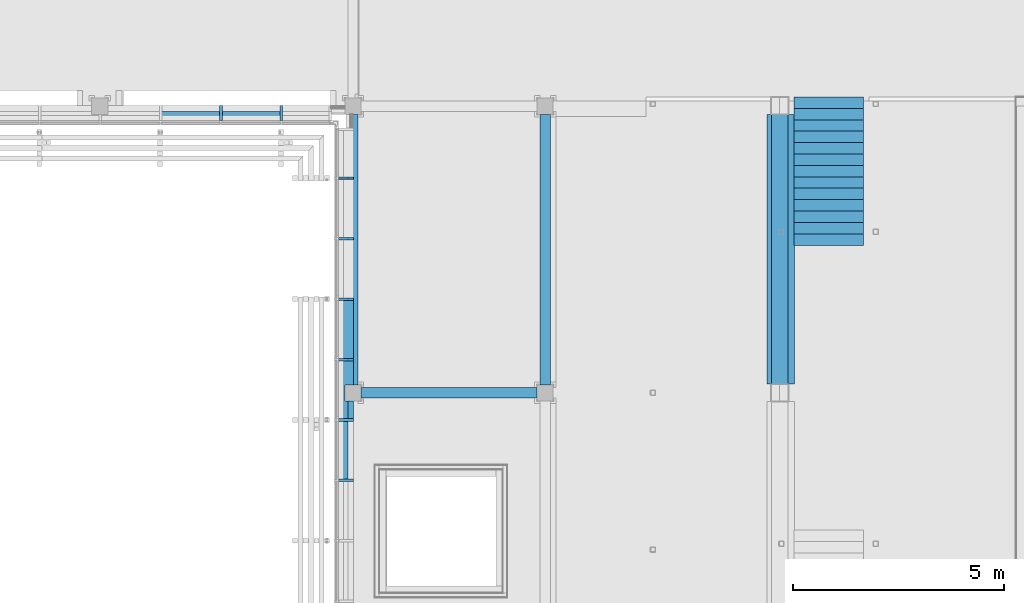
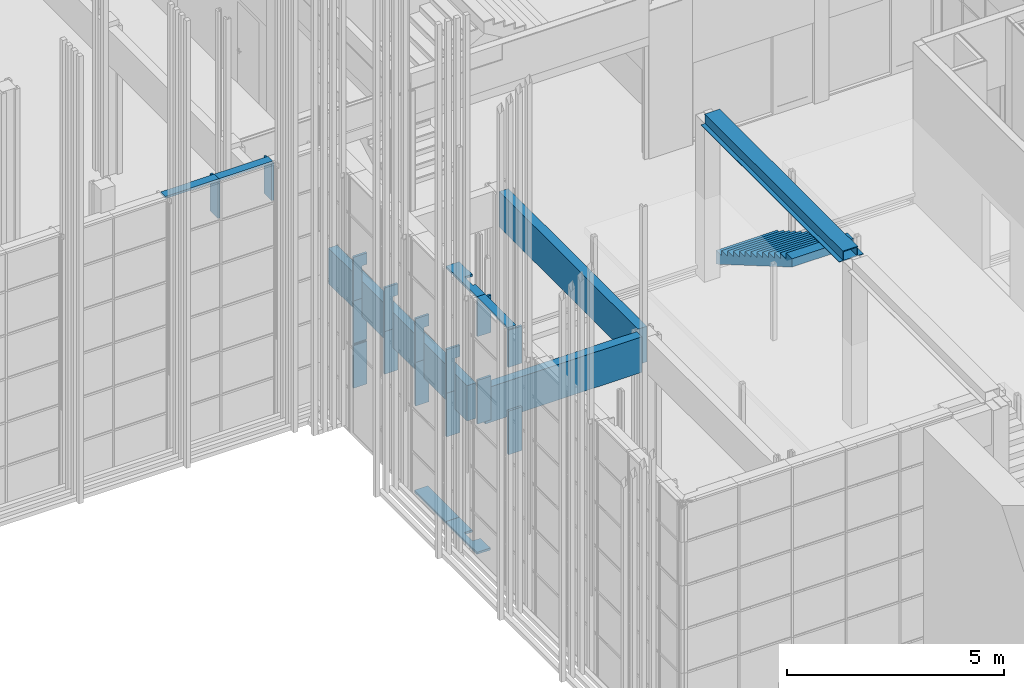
# One storey, part 72 of 260: 22 members, 4 beams, 3 elements without a shape of their own.
"""IFC2X3 building model written with IfcOpenShell, lengths in millimetres."""

from ifc_helpers import new_model, entity, si_unit, converted_unit, derived_unit, money_unit, direction, frame, origin_with_axes, place, context, subcontext, project, spatial, faceted_brep, material, type_object, element, aggregate, save


model = new_model("IFC2X3")

# Units and contexts
model_context = context("Model", 3, precision=0.01, world=origin_with_axes(), true_north=direction((0.0, 1.0)))
body_context = subcontext(model_context, "Body", "Model", "MODEL_VIEW")
ifc_project = project(units=[si_unit("LENGTHUNIT", "METRE", prefix="MILLI"), si_unit("AREAUNIT", "SQUARE_METRE"), si_unit("VOLUMEUNIT", "CUBIC_METRE"), converted_unit("PLANEANGLEUNIT", "DEGREE", entity("IfcPlaneAngleMeasure", 0.0174532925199), si_unit("PLANEANGLEUNIT", "RADIAN"), dimensions=[0, 0, 0, 0, 0, 0, 0]), money_unit("EUR"), converted_unit("TIMEUNIT", "Year", entity("IfcTimeMeasure", 31556926.0), si_unit("TIMEUNIT", "SECOND"), dimensions=[0, 0, 1, 0, 0, 0, 0]), si_unit("MASSUNIT", "GRAM", prefix="KILO"), si_unit("THERMODYNAMICTEMPERATUREUNIT", "DEGREE_CELSIUS"), si_unit("LUMINOUSINTENSITYUNIT", "LUMEN"), si_unit("ENERGYUNIT", "JOULE", prefix="MEGA"), derived_unit("THERMALCONDUCTANCEUNIT", [(si_unit("POWERUNIT", "WATT"), 1), (si_unit("LENGTHUNIT", "METRE"), -1), (si_unit("THERMODYNAMICTEMPERATUREUNIT", "KELVIN"), -1)]), derived_unit("SPECIFICHEATCAPACITYUNIT", [(si_unit("ENERGYUNIT", "JOULE"), 1), (si_unit("MASSUNIT", "GRAM", prefix="KILO"), -1), (si_unit("THERMODYNAMICTEMPERATUREUNIT", "KELVIN"), -1)]), derived_unit("MASSDENSITYUNIT", [(si_unit("MASSUNIT", "GRAM", prefix="KILO"), 1), (si_unit("VOLUMEUNIT", "CUBIC_METRE"), -1)])], contexts=[model_context])

# Site, building, storey
site_placement = place(None, origin_with_axes())
site = spatial("IfcSite", under=ifc_project, at=site_placement, Name="Kolde pst 67a", CompositionType="ELEMENT")
building_placement = place(site_placement, origin_with_axes())
building = spatial("IfcBuilding", under=site, at=building_placement, Name="Riigigümnaasium", CompositionType="ELEMENT")
storey_placement = place(building_placement, origin_with_axes())
storey = spatial("IfcBuildingStorey", under=building, at=storey_placement, Name="1. korrus", CompositionType="ELEMENT", Elevation=0.0)

# Stair, member
stair_placement = place(storey_placement, frame((58669.9488956, 24450.2693004, 0.0), z_axis=(0.0, 0.0, 1.0), x_axis=(1.0, 0.0, 0.0)))
stair = element("IfcStair", 1, at=stair_placement, inside=storey, Name="TREPP", ShapeType="NOTDEFINED")
ifc_material_1 = material(Name="_KANDETARIND - raudbetoon C25/30 vastavalt EK osale")
member_type_1 = type_object("IfcMemberType", Name="IfcMember", PredefinedType="USERDEFINED")
member_1_placement = place(stair_placement, origin_with_axes())
member_1 = element("IfcMember", 2, at=member_1_placement, type_object=member_type_1, material=ifc_material_1, Name="TT KONSTRUKTSIOON - 019", ObjectType="Stair Structure", context=body_context, shape_type="Brep", body=[
    faceted_brep([(1640.0, -180.0, -126.597194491), (1640.0, -90.0, -179.033091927), (1640.0, 0.0, -231.468989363), (1640.0, 0.0, 157.307692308), (1640.0, -270.0, 157.307692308), (1640.0, -270.0, 314.615384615), (1640.0, -540.0, 314.615384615), (1640.0, -540.0, 471.923076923), (1640.0, -810.0, 471.923076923), (1640.0, -810.0, 629.230769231), (1640.0, -1080.0, 629.230769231), (1640.0, -1080.0, 786.538461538), (1640.0, -1350.0, 786.538461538), (1640.0, -1350.0, 943.846153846), (1640.0, -1620.0, 943.846153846), (1640.0, -1620.0, 1101.15384615), (1640.0, -1890.0, 1101.15384615), (1640.0, -1890.0, 1258.46153846), (1640.0, -2160.0, 1258.46153846), (1640.0, -2160.0, 1415.76923077), (1640.0, -2430.0, 1415.76923077), (1640.0, -2430.0, 1573.07692308), (1640.0, -2700.0, 1573.07692308), (1640.0, -2700.0, 1730.38461538), (1640.0, -2970.0, 1730.38461538), (1640.0, -2970.0, 1887.69230769), (1640.0, -3240.0, 1887.69230769), (1640.0, -3240.0, 2045.0), (1640.0, -3510.0, 2045.0), (1640.0, -3510.0, 1813.53101064), (1640.0, -3420.0, 1761.0951132), (1640.0, -3330.0, 1708.65921577), (1640.0, -3240.0, 1656.22331833), (1640.0, -3150.0, 1603.78742089), (1640.0, -3060.0, 1551.35152346), (1640.0, -2970.0, 1498.91562602), (1640.0, -2880.0, 1446.47972859), (1640.0, -2790.0, 1394.04383115), (1640.0, -2700.0, 1341.60793371), (1640.0, -2610.0, 1289.17203628), (1640.0, -2520.0, 1236.73613884), (1640.0, -2430.0, 1184.30024141), (1640.0, -2340.0, 1131.86434397), (1640.0, -2250.0, 1079.42844653), (1640.0, -2160.0, 1026.9925491), (1640.0, -2070.0, 974.556651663), (1640.0, -1980.0, 922.120754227), (1640.0, -1890.0, 869.684856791), (1640.0, -1800.0, 817.248959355), (1640.0, -1710.0, 764.813061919), (1640.0, -1620.0, 712.377164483), (1640.0, -1530.0, 659.941267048), (1640.0, -1440.0, 607.505369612), (1640.0, -1350.0, 555.069472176), (1640.0, -1260.0, 502.63357474), (1640.0, -1170.0, 450.197677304), (1640.0, -1080.0, 397.761779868), (1640.0, -990.0, 345.325882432), (1640.0, -900.0, 292.889984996), (1640.0, -810.0, 240.45408756), (1640.0, -720.0, 188.018190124), (1640.0, -630.0, 135.582292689), (1640.0, -540.0, 83.1463952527), (1640.0, -450.0, 30.7104978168), (1640.0, -360.0, -21.7253996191), (1640.0, -270.0, -74.161297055), (0.0, -90.0, -179.033091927), (0.0, -180.0, -126.597194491), (0.0, 0.0, -231.468989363), (0.0, 0.0, 157.307692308), (0.0, -270.0, 157.307692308), (0.0, -270.0, 314.615384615), (0.0, -540.0, 314.615384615), (0.0, -540.0, 471.923076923), (0.0, -810.0, 471.923076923), (0.0, -810.0, 629.230769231), (0.0, -1080.0, 629.230769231), (0.0, -1080.0, 786.538461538), (0.0, -1350.0, 786.538461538), (0.0, -1350.0, 943.846153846), (0.0, -1620.0, 943.846153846), (0.0, -1620.0, 1101.15384615), (0.0, -1890.0, 1101.15384615), (0.0, -1890.0, 1258.46153846), (0.0, -2160.0, 1258.46153846), (0.0, -2160.0, 1415.76923077), (0.0, -2430.0, 1415.76923077), (0.0, -2430.0, 1573.07692308), (0.0, -2700.0, 1573.07692308), (0.0, -2700.0, 1730.38461538), (0.0, -2970.0, 1730.38461538), (0.0, -2970.0, 1887.69230769), (0.0, -3240.0, 1887.69230769), (0.0, -3240.0, 2045.0), (0.0, -3510.0, 2045.0), (0.0, -3510.0, 1813.53101064), (0.0, -3420.0, 1761.0951132), (0.0, -3330.0, 1708.65921577), (0.0, -3240.0, 1656.22331833), (0.0, -3150.0, 1603.78742089), (0.0, -3060.0, 1551.35152346), (0.0, -2970.0, 1498.91562602), (0.0, -2880.0, 1446.47972859), (0.0, -2790.0, 1394.04383115), (0.0, -2700.0, 1341.60793371), (0.0, -2610.0, 1289.17203628), (0.0, -2520.0, 1236.73613884), (0.0, -2430.0, 1184.30024141), (0.0, -2340.0, 1131.86434397), (0.0, -2250.0, 1079.42844653), (0.0, -2160.0, 1026.9925491), (0.0, -2070.0, 974.556651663), (0.0, -1980.0, 922.120754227), (0.0, -1890.0, 869.684856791), (0.0, -1800.0, 817.248959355), (0.0, -1710.0, 764.813061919), (0.0, -1620.0, 712.377164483), (0.0, -1530.0, 659.941267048), (0.0, -1440.0, 607.505369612), (0.0, -1350.0, 555.069472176), (0.0, -1260.0, 502.63357474), (0.0, -1170.0, 450.197677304), (0.0, -1080.0, 397.761779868), (0.0, -990.0, 345.325882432), (0.0, -900.0, 292.889984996), (0.0, -810.0, 240.45408756), (0.0, -720.0, 188.018190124), (0.0, -630.0, 135.582292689), (0.0, -540.0, 83.1463952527), (0.0, -450.0, 30.7104978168), (0.0, -360.0, -21.7253996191), (0.0, -270.0, -74.161297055)], [[[0, 1, 2, 3, 4, 5, 6, 7, 8, 9, 10, 11, 12, 13, 14, 15, 16, 17, 18, 19, 20, 21, 22, 23, 24, 25, 26, 27, 28, 29, 30, 31, 32, 33, 34, 35, 36, 37, 38, 39, 40, 41, 42, 43, 44, 45, 46, 47, 48, 49, 50, 51, 52, 53, 54, 55, 56, 57, 58, 59, 60, 61, 62, 63, 64, 65]], [[66, 1, 0, 67]], [[68, 2, 1, 66]], [[3, 2, 68, 69]], [[3, 69, 70, 4]], [[71, 5, 4, 70]], [[5, 71, 72, 6]], [[73, 7, 6, 72]], [[7, 73, 74, 8]], [[75, 9, 8, 74]], [[9, 75, 76, 10]], [[77, 11, 10, 76]], [[11, 77, 78, 12]], [[79, 13, 12, 78]], [[13, 79, 80, 14]], [[81, 15, 14, 80]], [[15, 81, 82, 16]], [[83, 17, 16, 82]], [[17, 83, 84, 18]], [[85, 19, 18, 84]], [[19, 85, 86, 20]], [[87, 21, 20, 86]], [[21, 87, 88, 22]], [[89, 23, 22, 88]], [[23, 89, 90, 24]], [[91, 25, 24, 90]], [[25, 91, 92, 26]], [[93, 27, 26, 92]], [[93, 94, 28, 27]], [[94, 95, 29, 28]], [[96, 30, 29, 95]], [[97, 31, 30, 96]], [[98, 32, 31, 97]], [[99, 33, 32, 98]], [[100, 34, 33, 99]], [[101, 35, 34, 100]], [[102, 36, 35, 101]], [[103, 37, 36, 102]], [[104, 38, 37, 103]], [[105, 39, 38, 104]], [[106, 40, 39, 105]], [[107, 41, 40, 106]], [[108, 42, 41, 107]], [[109, 43, 42, 108]], [[110, 44, 43, 109]], [[111, 45, 44, 110]], [[112, 46, 45, 111]], [[113, 47, 46, 112]], [[114, 48, 47, 113]], [[115, 49, 48, 114]], [[116, 50, 49, 115]], [[117, 51, 50, 116]], [[118, 52, 51, 117]], [[119, 53, 52, 118]], [[120, 54, 53, 119]], [[121, 55, 54, 120]], [[122, 56, 55, 121]], [[123, 57, 56, 122]], [[124, 58, 57, 123]], [[125, 59, 58, 124]], [[126, 60, 59, 125]], [[127, 61, 60, 126]], [[128, 62, 61, 127]], [[129, 63, 62, 128]], [[130, 64, 63, 129]], [[131, 65, 64, 130]], [[67, 0, 65, 131]], [[97, 96, 95, 94, 93, 92, 91, 90, 89, 88, 87, 86, 85, 84, 83, 82, 81, 80, 79, 78, 77, 76, 75, 74, 73, 72, 71, 70, 69, 68, 66, 67, 131, 130, 129, 128, 127, 126, 125, 124, 123, 122, 121, 120, 119, 118, 117, 116, 115, 114, 113, 112, 111, 110, 109, 108, 107, 106, 105, 104, 103, 102, 101, 100, 99, 98]]]),
])
aggregate(stair, [member_1])

# Curtain wall, members
curtain_wall_type = type_object("IfcCurtainWallType", Name="Curtain Wall Type", PredefinedType="NOTDEFINED")
curtain_wall_1_placement = place(storey_placement, frame((23890.0026791, 27220.1832522, -0.000253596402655), z_axis=(0.0, 0.0, 1.0), x_axis=(1.0, 0.0, 0.0)))
curtain_wall_1 = element("IfcCurtainWall", 3, at=curtain_wall_1_placement, inside=storey, type_object=curtain_wall_type, Name="Klaasfassaadi puitkarkass")
ifc_material_2 = material(Name="_KANDETARIND - liimpuit vastavalt EK osale")
member_type_2 = type_object("IfcMemberType", Name="Boundary Frame 60 x 360", PredefinedType="MEMBER")
member_2_placement = place(curtain_wall_1_placement, frame((21219.3770557, -3330.16844532, 7259.99985415), z_axis=(1.0, 0.0, -9.10009783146e-09), x_axis=(-9.10009783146e-09, 0.0, -1.0)))
member_2 = element("IfcMember", 4, at=member_2_placement, type_object=member_type_2, material=ifc_material_2, Name="RF RAAM SERV-700", ObjectType="MEMBER", context=body_context, shape_type="Brep", body=[
    faceted_brep([(59.9995875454, 220.054981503, 1430.00000055), (-1.3013139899e-05, 220.054981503, 1430.0), (-1.3013139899e-05, 0.0, 1430.0), (59.9999869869, 0.0, 1430.00000055), (0.0, 220.124789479, 0.0), (59.9996005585, 220.124789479, 5.4600235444e-07), (0.0, 0.0, 0.0), (60.0, 0.0, 5.4600235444e-07)], [[[0, 1, 2, 3]], [[4, 1, 0, 5]], [[1, 4, 6, 2]], [[6, 7, 3, 2]], [[5, 0, 3, 7]], [[4, 5, 7, 6]]]),
])
member_3_placement = place(curtain_wall_1_placement, frame((19789.3770557, -3330.16844545, 7259.99986717), z_axis=(1.0, 0.0, -9.10009596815e-09), x_axis=(-9.10009596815e-09, 0.0, -1.0)))
member_3 = element("IfcMember", 5, at=member_3_placement, type_object=member_type_2, material=ifc_material_2, Name="RF RAAM SERV-699", ObjectType="MEMBER", context=body_context, shape_type="Brep", body=[
    faceted_brep([(59.9996005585, 220.124789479, 1430.00000055), (-1.30131372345e-05, 220.124789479, 1430.0), (-1.30131372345e-05, 0.0, 1430.0), (59.9999869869, 0.0, 1430.00000055), (0.0, 220.194597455, 0.0), (59.9996135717, 220.194597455, 5.46009459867e-07), (0.0, 0.0, 0.0), (60.0, 0.0, 5.4600235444e-07)], [[[0, 1, 2, 3]], [[4, 1, 0, 5]], [[1, 4, 6, 2]], [[6, 7, 3, 2]], [[5, 0, 3, 7]], [[4, 5, 7, 6]]]),
])

curtain_wall_2_placement = place(storey_placement, frame((47889.9854796, 7778.28071079, -0.000681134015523), z_axis=(0.0, 0.0, 1.0), x_axis=(1.0, 0.0, 0.0)))
curtain_wall_2 = element("IfcCurtainWall", 6, at=curtain_wall_2_placement, inside=storey, type_object=curtain_wall_type, Name="Klaasfassaadi puitkarkass")
member_4_placement = place(curtain_wall_2_placement, frame((-9.70283053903e-06, 9028.28063511, 0.0), z_axis=(-1.07471327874e-09, 1.0, 0.0), x_axis=(0.0, 0.0, 1.0)))
member_4 = element("IfcMember", 7, at=member_4_placement, type_object=member_type_2, material=ifc_material_2, Name="RF RAAM SERV-887", ObjectType="MEMBER", context=body_context, shape_type="Brep", body=[
    faceted_brep([(60.0, 149.999999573, 453.438628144), (60.0, 149.999999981, 833.438628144), (60.0, 360.000000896, 833.438627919), (60.0, 360.000001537, 1429.99999961), (60.0, 1.5368399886e-06, 1430.0), (60.0, 0.0, 0.0), (60.0, 360.0, -3.86897625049e-07), (60.0, 360.000000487, 453.438627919), (0.000681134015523, 149.999999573, 453.438628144), (0.000681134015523, 149.999999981, 833.438628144), (0.000681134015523, 360.000000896, 833.438627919), (0.0, 360.000001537, 1429.99999961), (0.0, 1.5368399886e-06, 1430.0), (0.0, 0.0, 0.0), (0.0, 360.0, -3.86897625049e-07), (0.000681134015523, 360.000000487, 453.438627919)], [[[0, 1, 2, 3, 4, 5, 6, 7]], [[1, 0, 8, 9]], [[10, 2, 1, 9]], [[2, 10, 11, 3]], [[4, 3, 11, 12]], [[13, 5, 4, 12]], [[14, 6, 5, 13]], [[15, 7, 6, 14]], [[0, 7, 15, 8]], [[8, 15, 14, 13, 12, 11, 10, 9]]]),
])
member_5_placement = place(curtain_wall_2_placement, frame((-1.12396705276e-05, 10458.2806351, 0.0), z_axis=(-1.07471824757e-09, 1.0, 0.0), x_axis=(0.0, 0.0, 1.0)))
member_5 = element("IfcMember", 8, at=member_5_placement, type_object=member_type_2, material=ifc_material_2, Name="RF RAAM SERV-888", ObjectType="MEMBER", context=body_context, shape_type="Brep", body=[
    faceted_brep([(60.0, 360.0, -3.86897625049e-07), (60.0, 360.000001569, 1459.99999961), (60.0, 1.56909152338e-06, 1460.0), (60.0, 0.0, 0.0), (0.0, 360.0, -3.86897625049e-07), (0.0, 360.000001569, 1459.99999961), (0.0, 1.56909152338e-06, 1460.0), (0.0, 0.0, 0.0)], [[[0, 1, 2, 3]], [[4, 5, 1, 0]], [[1, 5, 6, 2]], [[3, 2, 6, 7]], [[0, 3, 7, 4]], [[7, 6, 5, 4]]]),
])
member_6_placement = place(curtain_wall_2_placement, frame((-9.70283053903e-06, 9028.28063511, 7260.00002512), z_axis=(1.07471824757e-09, -1.0, 0.0), x_axis=(0.0, 0.0, -1.0)))
member_6 = element("IfcMember", 9, at=member_6_placement, type_object=member_type_2, material=ifc_material_2, Name="RF RAAM SERV-903", ObjectType="MEMBER", context=body_context, shape_type="Brep", body=[
    faceted_brep([(0.0, 219.999945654, 1430.00000024), (0.0, 219.999942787, 2.36436648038e-07), (0.0, 0.0, 0.0), (0.0, -1.53684709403e-06, 1430.0), (59.9993439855, 219.999942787, 2.36436648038e-07), (59.9993439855, 219.999945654, 1430.00000024), (60.0, 0.0, 0.0), (60.0, -1.53684709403e-06, 1430.0)], [[[0, 1, 2, 3]], [[4, 1, 0, 5]], [[1, 4, 6, 2]], [[2, 6, 7, 3]], [[5, 0, 3, 7]], [[4, 5, 7, 6]]]),
])
member_7_placement = place(curtain_wall_2_placement, frame((-1.12396705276e-05, 10458.2806351, 7260.00002512), z_axis=(1.07471327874e-09, -1.0, 0.0), x_axis=(0.0, 0.0, -1.0)))
member_7 = element("IfcMember", 10, at=member_7_placement, type_object=member_type_2, material=ifc_material_2, Name="RF RAAM SERV-902", ObjectType="MEMBER", context=body_context, shape_type="Brep", body=[
    faceted_brep([(0.0, 149.999999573, 976.561371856), (0.0, 149.999999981, 596.561371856), (0.0, 359.999999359, 596.561372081), (0.0, 360.0, 3.86897625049e-07), (0.0, 0.0, 0.0), (0.0, -1.5368399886e-06, 1430.0), (0.0, 219.999942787, 1430.00000024), (0.0, 219.999941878, 976.561371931), (59.9993439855, 149.999999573, 976.561371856), (59.9993439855, 149.999999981, 596.561371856), (59.9995992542, 359.999999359, 596.561372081), (60.0, 360.0, 3.86897625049e-07), (60.0, 0.0, 0.0), (60.0, -1.5368399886e-06, 1430.0), (59.9993439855, 219.999942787, 1430.00000024), (59.9993439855, 219.999941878, 976.561371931)], [[[0, 1, 2, 3, 4, 5, 6, 7]], [[1, 0, 8, 9]], [[10, 2, 1, 9]], [[2, 10, 11, 3]], [[4, 3, 11, 12]], [[5, 4, 12, 13]], [[13, 14, 6, 5]], [[15, 7, 6, 14]], [[0, 7, 15, 8]], [[8, 15, 14, 13, 12, 11, 10, 9]]]),
])

# Member
member_type_3 = type_object("IfcMemberType", Name="Mullion Frame 60 x 360", PredefinedType="MEMBER")
member_8_placement = place(curtain_wall_1_placement, frame((22649.3770557, -3330.16844519, 6150.0002536), z_axis=(0.0, 0.0, 1.0), x_axis=(1.0, 0.0, 0.0)))
member_8 = element("IfcMember", 11, at=member_8_placement, type_object=member_type_3, material=ifc_material_2, Name="RF RAAM VERT-153", ObjectType="MEMBER", context=body_context, shape_type="Brep", body=[
    faceted_brep([(30.0, -2.70716782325e-09, 0.0), (30.0000000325, 359.999999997, 0.0), (30.0000000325, 359.999999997, 1049.99958427), (30.0, -2.70716782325e-09, 1049.99958755), (-29.9999999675, 360.000000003, 0.0), (-30.0, 2.70716782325e-09, 0.0), (-29.9999999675, 360.000000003, 1049.99958427), (-30.0, 2.70716782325e-09, 1049.99958755)], [[[0, 1, 2, 3]], [[4, 1, 0, 5]], [[1, 4, 6, 2]], [[3, 2, 6, 7]], [[5, 0, 3, 7]], [[4, 5, 7, 6]]]),
])

member_9_placement = place(curtain_wall_1_placement, frame((21219.3770557, -3330.16844532, 6150.0002536), z_axis=(0.0, 0.0, 1.0), x_axis=(1.0, 0.0, 0.0)))
member_9 = element("IfcMember", 12, at=member_9_placement, type_object=member_type_3, material=ifc_material_2, Name="RF RAAM VERT-154", ObjectType="MEMBER", context=body_context, shape_type="Brep", body=[
    faceted_brep([(30.0, -2.70716782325e-09, 0.0), (30.0000000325, 359.999999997, 0.0), (30.0000000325, 359.999999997, 1049.99958427), (30.0, -2.70716782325e-09, 1049.99958755), (-29.9999999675, 360.000000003, 0.0), (-30.0, 2.70361510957e-09, 0.0), (-29.9999999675, 360.000000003, 1049.99958427), (-30.0, 2.70361510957e-09, 1049.99958755)], [[[0, 1, 2, 3]], [[4, 1, 0, 5]], [[1, 4, 6, 2]], [[3, 2, 6, 7]], [[5, 0, 3, 7]], [[4, 5, 7, 6]]]),
])

aggregate(curtain_wall_1, [member_8, member_9, member_2, member_3])

member_10_placement = place(curtain_wall_2_placement, frame((-8.165983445e-06, 7598.28063511, 3690.00068113), z_axis=(0.0, 0.0, 1.0), x_axis=(1.07471576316e-09, -1.0, 0.0)))
member_10 = element("IfcMember", 13, at=member_10_placement, type_object=member_type_3, material=ifc_material_2, Name="RF RAAM VERT-457", ObjectType="MEMBER", context=body_context, shape_type="Brep", body=[
    faceted_brep([(30.0, 0.0, 0.0), (30.0, 360.0, 0.0), (30.0, 360.0, 1230.0), (30.0, 0.0, 1230.0), (-30.0, 360.0, 0.0), (-30.0, 0.0, 0.0), (-30.0, 360.0, 1230.0), (-30.0, 0.0, 1230.0)], [[[0, 1, 2, 3]], [[4, 1, 0, 5]], [[1, 4, 6, 2]], [[3, 2, 6, 7]], [[5, 0, 3, 7]], [[4, 5, 7, 6]]]),
])

member_11_placement = place(curtain_wall_2_placement, frame((-9.70283053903e-06, 9028.28063511, 3690.00068113), z_axis=(0.0, 0.0, 1.0), x_axis=(1.07471576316e-09, -1.0, 0.0)))
member_11 = element("IfcMember", 14, at=member_11_placement, type_object=member_type_3, material=ifc_material_2, Name="RF RAAM VERT-457", ObjectType="MEMBER", context=body_context, shape_type="Brep", body=[
    faceted_brep([(30.0, 0.0, 0.0), (30.0, 360.0, 0.0), (30.0, 360.0, 1230.0), (30.0, 0.0, 1230.0), (-30.0, 360.0, 0.0), (-30.0, 0.0, 0.0), (-30.0, 360.0, 1230.0), (-30.0, 0.0, 1230.0)], [[[0, 1, 2, 3]], [[4, 1, 0, 5]], [[1, 4, 6, 2]], [[3, 2, 6, 7]], [[5, 0, 3, 7]], [[4, 5, 7, 6]]]),
])

member_12_placement = place(curtain_wall_2_placement, frame((-1.12396705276e-05, 10458.2806351, 2460.00068113), z_axis=(0.0, 0.0, 1.0), x_axis=(1.07471576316e-09, -1.0, 0.0)))
member_12 = element("IfcMember", 15, at=member_12_placement, type_object=member_type_3, material=ifc_material_2, Name="RF RAAM VERT-457", ObjectType="MEMBER", context=body_context, shape_type="Brep", body=[
    faceted_brep([(-30.0, 219.999992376, 1230.0), (-30.0, 219.999992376, 710.0), (-30.0, 360.0, 710.0), (-30.0, 360.0, 0.0), (-30.0, 0.0, 0.0), (-30.0, 0.0, 1230.0), (30.0, 219.999992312, 1230.0), (30.0, 219.999992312, 710.0), (30.0, 360.0, 710.0), (30.0, 360.0, 0.0), (30.0, 0.0, 0.0), (30.0, 0.0, 1230.0)], [[[0, 1, 2, 3, 4, 5]], [[1, 0, 6, 7]], [[8, 2, 1, 7]], [[2, 8, 9, 3]], [[3, 9, 10, 4]], [[4, 10, 11, 5]], [[6, 0, 5, 11]], [[7, 6, 11, 10, 9, 8]]]),
])

member_13_placement = place(curtain_wall_2_placement, frame((-1.12396705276e-05, 10458.2806351, 3690.00068113), z_axis=(0.0, 0.0, 1.0), x_axis=(1.07471576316e-09, -1.0, 0.0)))
member_13 = element("IfcMember", 16, at=member_13_placement, type_object=member_type_3, material=ifc_material_2, Name="RF RAAM VERT-457", ObjectType="MEMBER", context=body_context, shape_type="Brep", body=[
    faceted_brep([(30.0, 219.999992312, 480.0), (30.0, 219.999992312, 0.0), (-30.0, 219.999992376, 0.0), (-30.0, 219.999992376, 480.0), (-30.0, 219.9945629, 760.0), (30.0, 219.994208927, 760.0), (30.0, 219.994208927, 780.0), (30.0, 219.994208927, 810.0), (30.0, 219.994208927, 907.0), (30.0, 219.994208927, 910.0), (30.0, 360.0, 910.0), (30.0, 360.0, 1230.0), (30.0, 0.0, 1230.0), (30.0, 0.0, 0.0), (-30.0, 0.0, 0.0), (-30.0, 0.0, 1230.0), (-30.0, 360.0, 1230.0), (-30.0, 360.0, 910.0), (-30.0, 219.9945629, 910.0), (-30.0, 219.9945629, 907.0), (-30.0, 219.9945629, 810.0), (-30.0, 219.9945629, 780.0)], [[[0, 1, 2, 3, 4, 5]], [[1, 0, 5, 6, 7, 8, 9, 10, 11, 12, 13]], [[2, 1, 13, 14]], [[3, 2, 14, 15, 16, 17, 18, 19, 20, 21, 4]], [[5, 4, 21, 6]], [[6, 21, 20, 7]], [[7, 20, 19, 8]], [[8, 19, 18, 9]], [[9, 18, 17, 10]], [[11, 10, 17, 16]], [[16, 15, 12, 11]], [[12, 15, 14, 13]]]),
])

member_14_placement = place(curtain_wall_2_placement, frame((-1.27765176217e-05, 11888.2806351, 2460.00068113), z_axis=(0.0, 0.0, 1.0), x_axis=(1.07471576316e-09, -1.0, 0.0)))
member_14 = element("IfcMember", 17, at=member_14_placement, type_object=member_type_3, material=ifc_material_2, Name="RF RAAM VERT-457", ObjectType="MEMBER", context=body_context, shape_type="Brep", body=[
    faceted_brep([(-30.0, 219.999993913, 1230.0), (-30.0, 219.999993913, 710.0), (-30.0, 360.0, 710.0), (-30.0, 360.0, 30.0), (-30.0, 0.0, 30.0), (-30.0, 0.0, 1230.0), (30.0, 219.999993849, 1230.0), (30.0, 219.999993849, 710.0), (30.0, 360.0, 710.0), (30.0, 360.0, 0.0), (0.0, 360.0, 0.0), (0.0, 360.0, 30.0), (0.0, 0.0, 30.0), (0.0, 0.0, 0.0), (30.0, 0.0, 0.0), (30.0, 0.0, 1230.0)], [[[0, 1, 2, 3, 4, 5]], [[1, 0, 6, 7]], [[8, 2, 1, 7]], [[2, 8, 9, 10, 11, 3]], [[12, 4, 3, 11]], [[4, 12, 13, 14, 15, 5]], [[6, 0, 5, 15]], [[7, 6, 15, 14, 9, 8]], [[13, 10, 9, 14]], [[13, 12, 11, 10]]]),
])

member_15_placement = place(curtain_wall_2_placement, frame((-1.27765176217e-05, 11888.2806351, 3690.00068113), z_axis=(0.0, 0.0, 1.0), x_axis=(1.07471576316e-09, -1.0, 0.0)))
member_15 = element("IfcMember", 18, at=member_15_placement, type_object=member_type_3, material=ifc_material_2, Name="RF RAAM VERT-457", ObjectType="MEMBER", context=body_context, shape_type="Brep", body=[
    faceted_brep([(30.0, 219.999993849, 480.0), (30.0, 219.999993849, 0.0), (-30.0, 219.999993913, 0.0), (-30.0, 219.999993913, 480.0), (-30.0, 220.002999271, 760.0), (30.0, 220.002645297, 760.0), (30.0, 220.002645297, 780.0), (30.0, 220.002645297, 810.0), (30.0, 220.002645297, 907.0), (30.0, 220.002645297, 910.0), (30.0, 360.0, 910.0), (30.0, 360.0, 1230.0), (30.0, 0.0, 1230.0), (30.0, 0.0, 0.0), (-30.0, 0.0, 0.0), (-30.0, 0.0, 1230.0), (-30.0, 360.0, 1230.0), (-30.0, 360.0, 910.0), (-30.0, 220.002999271, 910.0), (-30.0, 220.002999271, 907.0), (-30.0, 220.002999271, 810.0), (-30.0, 220.002999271, 780.0)], [[[0, 1, 2, 3, 4, 5]], [[1, 0, 5, 6, 7, 8, 9, 10, 11, 12, 13]], [[2, 1, 13, 14]], [[3, 2, 14, 15, 16, 17, 18, 19, 20, 21, 4]], [[5, 4, 21, 6]], [[6, 21, 20, 7]], [[7, 20, 19, 8]], [[8, 19, 18, 9]], [[9, 18, 17, 10]], [[11, 10, 17, 16]], [[16, 15, 12, 11]], [[12, 15, 14, 13]]]),
])

member_16_placement = place(curtain_wall_2_placement, frame((-1.43133576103e-05, 13318.2806351, 2460.00068113), z_axis=(0.0, 0.0, 1.0), x_axis=(1.07471327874e-09, -1.0, 0.0)))
member_16 = element("IfcMember", 19, at=member_16_placement, type_object=member_type_3, material=ifc_material_2, Name="RF RAAM VERT-457", ObjectType="MEMBER", context=body_context, shape_type="Brep", body=[
    faceted_brep([(-30.0, 219.99999545, 1230.0), (-30.0, 219.99999545, 710.0), (-30.0, 360.0, 710.0), (-30.0, 360.0, 30.0), (-30.0, 0.0, 30.0), (-30.0, 0.0, 1230.0), (30.0, 219.999995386, 1230.0), (30.0, 219.999995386, 710.0), (30.0, 360.0, 710.0), (30.0, 360.0, 30.0), (30.0, 0.0, 30.0), (30.0, 0.0, 1230.0)], [[[0, 1, 2, 3, 4, 5]], [[1, 0, 6, 7]], [[8, 2, 1, 7]], [[2, 8, 9, 3]], [[3, 9, 10, 4]], [[5, 4, 10, 11]], [[6, 0, 5, 11]], [[7, 6, 11, 10, 9, 8]]]),
])

member_17_placement = place(curtain_wall_2_placement, frame((-1.43133576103e-05, 13318.2806351, 3690.00068113), z_axis=(0.0, 0.0, 1.0), x_axis=(1.07471327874e-09, -1.0, 0.0)))
member_17 = element("IfcMember", 20, at=member_17_placement, type_object=member_type_3, material=ifc_material_2, Name="RF RAAM VERT-457", ObjectType="MEMBER", context=body_context, shape_type="Brep", body=[
    faceted_brep([(30.0, 220.011081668, 480.0), (-30.0, 220.011435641, 480.0), (-30.0, 220.011435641, 760.0), (30.0, 220.011081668, 760.0), (-30.0, 219.99999545, 480.0), (30.0, 219.999995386, 480.0), (-30.0, 219.99999545, 0.0), (-30.0, 0.0, 0.0), (-30.0, 0.0, 1230.0), (-30.0, 360.0, 1230.0), (-30.0, 360.0, 910.0), (-30.0, 220.011435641, 910.0), (-30.0, 220.011435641, 907.0), (-30.0, 220.011435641, 810.0), (-30.0, 220.011435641, 780.0), (30.0, 220.011081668, 780.0), (30.0, 220.011081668, 810.0), (30.0, 220.011081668, 907.0), (30.0, 220.011081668, 910.0), (30.0, 360.0, 910.0), (30.0, 360.0, 1230.0), (30.0, 0.0, 1230.0), (30.0, 0.0, 0.0), (30.0, 219.999995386, 0.0)], [[[0, 1, 2, 3]], [[4, 1, 0, 5]], [[4, 6, 7, 8, 9, 10, 11, 12, 13, 14, 2, 1]], [[3, 2, 14, 15]], [[5, 0, 3, 15, 16, 17, 18, 19, 20, 21, 22, 23]], [[6, 4, 5, 23]], [[6, 23, 22, 7]], [[21, 8, 7, 22]], [[9, 8, 21, 20]], [[20, 19, 10, 9]], [[18, 11, 10, 19]], [[17, 12, 11, 18]], [[16, 13, 12, 17]], [[15, 14, 13, 16]]]),
])

member_18_placement = place(curtain_wall_2_placement, frame((-1.58501975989e-05, 14748.2806351, 1230.00068113), z_axis=(0.0, 0.0, 1.0), x_axis=(1.07471574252e-09, -1.0, 0.0)))
member_18 = element("IfcMember", 21, at=member_18_placement, type_object=member_type_3, material=ifc_material_2, Name="RF RAAM VERT-457", ObjectType="MEMBER", context=body_context, shape_type="Brep", body=[
    faceted_brep([(0.0, 0.0, 1230.0), (-30.0, 0.0, 1230.0), (-30.0, 0.0, 0.0), (30.0, 0.0, 0.0), (30.0, 0.0, 1200.0), (0.0, 0.0, 1200.0), (0.0, 360.0, 1230.0), (-30.0, 360.0, 1230.0), (-30.0, 360.0, 0.0), (30.0, 360.0, 0.0), (30.0, 360.0, 1200.0), (0.0, 360.0, 1200.0)], [[[0, 1, 2, 3, 4, 5]], [[6, 7, 1, 0]], [[8, 2, 1, 7]], [[8, 9, 3, 2]], [[4, 3, 9, 10]], [[10, 11, 5, 4]], [[5, 11, 6, 0]], [[11, 10, 9, 8, 7, 6]]]),
])

member_19_placement = place(curtain_wall_2_placement, frame((-1.58501975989e-05, 14748.2806351, 2460.00068113), z_axis=(0.0, 0.0, 1.0), x_axis=(1.07471574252e-09, -1.0, 0.0)))
member_19 = element("IfcMember", 22, at=member_19_placement, type_object=member_type_3, material=ifc_material_2, Name="RF RAAM VERT-457", ObjectType="MEMBER", context=body_context, shape_type="Brep", body=[
    faceted_brep([(-30.0, 219.999996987, 1230.0), (-30.0, 219.999996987, 710.0), (-30.0, 360.0, 710.0), (-30.0, 360.0, 0.0), (-30.0, 0.0, 0.0), (-30.0, 0.0, 1230.0), (30.0, 219.999996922, 1230.0), (30.0, 219.999996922, 710.0), (30.0, 360.0, 710.0), (30.0, 360.0, 30.0), (0.0, 360.0, 30.0), (0.0, 360.0, 0.0), (0.0, 0.0, 0.0), (0.0, 0.0, 30.0), (30.0, 0.0, 30.0), (30.0, 0.0, 1230.0)], [[[0, 1, 2, 3, 4, 5]], [[1, 0, 6, 7]], [[8, 2, 1, 7]], [[2, 8, 9, 10, 11, 3]], [[11, 12, 4, 3]], [[12, 13, 14, 15, 5, 4]], [[6, 0, 5, 15]], [[7, 6, 15, 14, 9, 8]], [[14, 13, 10, 9]], [[13, 12, 11, 10]]]),
])

member_20_placement = place(curtain_wall_2_placement, frame((-1.58501975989e-05, 14748.2806351, 3690.00068113), z_axis=(0.0, 0.0, 1.0), x_axis=(1.07471574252e-09, -1.0, 0.0)))
member_20 = element("IfcMember", 23, at=member_20_placement, type_object=member_type_3, material=ifc_material_2, Name="RF RAAM VERT-457", ObjectType="MEMBER", context=body_context, shape_type="Brep", body=[
    faceted_brep([(30.0, 220.019518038, 480.0), (-30.0, 220.019872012, 480.0), (-30.0, 220.019872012, 760.0), (30.0, 220.019518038, 760.0), (-30.0, 219.999996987, 480.0), (30.0, 219.999996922, 480.0), (-30.0, 219.999996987, 0.0), (-30.0, 0.0, 0.0), (-30.0, 0.0, 1230.0), (-30.0, 360.0, 1230.0), (-30.0, 360.0, 910.0), (-30.0, 220.019872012, 910.0), (-30.0, 220.019872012, 907.0), (-30.0, 220.019872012, 810.0), (-30.0, 220.019872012, 780.0), (30.0, 220.019518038, 780.0), (30.0, 220.019518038, 810.0), (30.0, 220.019518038, 907.0), (30.0, 220.019518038, 910.0), (30.0, 360.0, 910.0), (30.0, 360.0, 1230.0), (30.0, 0.0, 1230.0), (30.0, 0.0, 0.0), (30.0, 219.999996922, 0.0)], [[[0, 1, 2, 3]], [[4, 1, 0, 5]], [[4, 6, 7, 8, 9, 10, 11, 12, 13, 14, 2, 1]], [[3, 2, 14, 15]], [[5, 0, 3, 15, 16, 17, 18, 19, 20, 21, 22, 23]], [[6, 4, 5, 23]], [[6, 23, 22, 7]], [[21, 8, 7, 22]], [[9, 8, 21, 20]], [[20, 19, 10, 9]], [[18, 11, 10, 19]], [[17, 12, 11, 18]], [[16, 13, 12, 17]], [[15, 14, 13, 16]]]),
])

member_21_placement = place(curtain_wall_2_placement, frame((-8.165983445e-06, 7598.28063511, 6150.00068113), z_axis=(0.0, 0.0, 1.0), x_axis=(1.07471576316e-09, -1.0, 0.0)))
member_21 = element("IfcMember", 24, at=member_21_placement, type_object=member_type_3, material=ifc_material_2, Name="RF RAAM VERT-877", ObjectType="MEMBER", context=body_context, shape_type="Brep", body=[
    faceted_brep([(30.0, 0.0, 0.0), (30.0, 360.0, 0.0), (30.0, 360.0, 1049.99958427), (30.0, 0.0, 1049.99958755), (-30.0, 360.0, 0.0), (-30.0, 0.0, 0.0), (-30.0, 360.0, 1049.99958427), (-30.0, 0.0, 1049.99958755)], [[[0, 1, 2, 3]], [[4, 1, 0, 5]], [[1, 4, 6, 2]], [[3, 2, 6, 7]], [[5, 0, 3, 7]], [[4, 5, 7, 6]]]),
])

member_22_placement = place(curtain_wall_2_placement, frame((-9.70283053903e-06, 9028.28063511, 6150.00068113), z_axis=(0.0, 0.0, 1.0), x_axis=(1.07471576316e-09, -1.0, 0.0)))
member_22 = element("IfcMember", 25, at=member_22_placement, type_object=member_type_3, material=ifc_material_2, Name="RF RAAM VERT-878", ObjectType="MEMBER", context=body_context, shape_type="Brep", body=[
    faceted_brep([(30.0, 0.0, 0.0), (30.0, 360.0, 0.0), (30.0, 360.0, 1049.99958427), (30.0, 0.0, 1049.99958755), (-30.0, 360.0, 0.0), (-30.0, 0.0, 0.0), (-30.0, 360.0, 1049.99958427), (-30.0, 0.0, 1049.99958755)], [[[0, 1, 2, 3]], [[4, 1, 0, 5]], [[1, 4, 6, 2]], [[3, 2, 6, 7]], [[5, 0, 3, 7]], [[4, 5, 7, 6]]]),
])

aggregate(curtain_wall_2, [member_10, member_11, member_12, member_13, member_14, member_15, member_16, member_17, member_18, member_19, member_20, member_4, member_5, member_21, member_6, member_22, member_7])

# Beams
beam_type_1 = type_object("IfcBeamType", Name="_KANDETARIND - liimpuit vastavalt EK osale 240 x 1000", PredefinedType="BEAM")
beam_1_placement = place(storey_placement, frame((48229.9854607, 24039.9965348, 3670.0), z_axis=(0.0, 0.0, 1.0), x_axis=(-1.0, 0.0, 0.0)))
element("IfcBeam", 26, at=beam_1_placement, inside=storey, type_object=beam_type_1, material=ifc_material_2, Name="Tala", ObjectType="BEAM", context=body_context, shape_type="Brep", body=[
    faceted_brep([(120.0, 0.0, 500.0), (120.0, 6399.99656056, 500.0), (-120.0, 6399.99656056, 500.0), (-120.0, 0.0, 500.0), (120.0, 0.0, -500.0), (120.0, 6399.99656056, -500.0), (-120.0, 6399.99656056, -500.0), (-120.0, 0.0, -500.0)], [[[0, 1, 2, 3]], [[4, 5, 1, 0]], [[2, 1, 5, 6]], [[3, 2, 6, 7]], [[4, 0, 3, 7]], [[7, 6, 5, 4]]]),
])
beam_2_placement = place(storey_placement, frame((48419.985469, 17449.9999742, 3670.0), z_axis=(0.0, 0.0, 1.0), x_axis=(0.0, -1.0, 0.0)))
element("IfcBeam", 27, at=beam_2_placement, inside=storey, type_object=beam_type_1, material=ifc_material_2, Name="Tala", ObjectType="BEAM", context=body_context, shape_type="Brep", body=[
    faceted_brep([(120.0, 0.0, 500.0), (120.0, 4170.00864403, 500.0), (-120.0, 4170.00864403, 500.0), (-120.0, 0.0, 500.0), (120.0, 0.0, -500.0), (120.0, 4170.00864403, -500.0), (-120.0, 4170.00864403, -500.0), (-120.0, 0.0, -500.0)], [[[0, 1, 2, 3]], [[4, 5, 1, 0]], [[2, 1, 5, 6]], [[3, 2, 6, 7]], [[4, 0, 3, 7]], [[7, 6, 5, 4]]]),
])
beam_3_placement = place(storey_placement, frame((52779.9941032, 17639.9999742, 3670.0), z_axis=(0.0, 0.0, 1.0), x_axis=(1.0, -2.96910433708e-09, 0.0)))
element("IfcBeam", 28, at=beam_3_placement, inside=storey, type_object=beam_type_1, material=ifc_material_2, Name="Tala", ObjectType="BEAM", context=body_context, shape_type="Brep", body=[
    faceted_brep([(120.0, 0.0, 500.0), (120.0, 6399.99656056, 500.0), (-120.0, 6399.99656056, 500.0), (-120.0, 0.0, 500.0), (120.0, 0.0, -500.0), (120.0, 6399.99656056, -500.0), (-120.0, 6399.99656056, -500.0), (-120.0, 0.0, -500.0)], [[[0, 1, 2, 3]], [[4, 5, 1, 0]], [[2, 1, 5, 6]], [[3, 2, 6, 7]], [[4, 0, 3, 7]], [[7, 6, 5, 4]]]),
])
ifc_material_3 = material(Name="_METALL - alumiinium")
beam_type_2 = type_object("IfcBeamType", Name="Garderoobi tala 650 x 280", PredefinedType="BEAM")
beam_4_placement = place(storey_placement, frame((58329.9488482, 17659.9999742, 4440.0), z_axis=(0.0, 0.0, 1.0), x_axis=(1.0, 0.0, 0.0)))
element("IfcBeam", 29, at=beam_4_placement, inside=storey, type_object=beam_type_2, material=ifc_material_3, Name="Tala", ObjectType="BEAM", context=body_context, shape_type="Brep", body=[
    faceted_brep([(189.999981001, 6370.27385937, -19.9999307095), (189.999981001, 6370.27385937, -264.999994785), (349.999978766, 6370.27385937, -264.999994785), (349.999978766, 6370.27385937, -279.99999851), (-300.000021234, 6370.27385937, -279.99999851), (-300.000021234, 6370.27385937, -264.999994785), (-190.000019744, 6370.27385937, -264.999994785), (-190.000019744, 6370.27385937, -19.9999307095), (-200.000018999, 6370.27385937, -19.9999307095), (-200.000018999, 6370.27385937, 0.0), (200.000018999, 6370.27385937, 0.0), (200.000018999, 6370.27385937, -19.9999307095), (181.999975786, 6370.27385937, -19.9999307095), (-182.000024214, 6370.27385937, -19.9999307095), (-182.000024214, 6370.27385937, -264.999994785), (181.999975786, 6370.27385937, -264.999994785), (189.999981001, 0.0, -19.9999307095), (189.999981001, 0.0, -264.999994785), (349.999978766, 0.0, -264.999994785), (349.999978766, 0.0, -279.99999851), (-300.000021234, 0.0, -279.99999851), (-300.000021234, 0.0, -264.999994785), (-190.000019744, 0.0, -264.999994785), (-190.000019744, 0.0, -19.9999307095), (-200.000018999, 0.0, -19.9999307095), (-200.000018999, 0.0, 0.0), (200.000018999, 0.0, 0.0), (200.000018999, 0.0, -19.9999307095), (181.999975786, 0.0, -19.9999307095), (-182.000024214, 0.0, -19.9999307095), (-182.000024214, 0.0, -264.999994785), (181.999975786, 0.0, -264.999994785)], [[[0, 1, 2, 3, 4, 5, 6, 7, 8, 9, 10, 11], [12, 13, 14, 15]], [[1, 0, 16, 17]], [[2, 1, 17, 18]], [[3, 2, 18, 19]], [[4, 3, 19, 20]], [[5, 4, 20, 21]], [[6, 5, 21, 22]], [[7, 6, 22, 23]], [[8, 7, 23, 24]], [[9, 8, 24, 25]], [[10, 9, 25, 26]], [[11, 10, 26, 27]], [[0, 11, 27, 16]], [[13, 12, 28, 29]], [[14, 13, 29, 30]], [[15, 14, 30, 31]], [[12, 15, 31, 28]], [[22, 21, 20, 19, 18, 17, 16, 27, 26, 25, 24, 23], [28, 31, 30, 29]]]),
])

save(model, "model.ifc")
